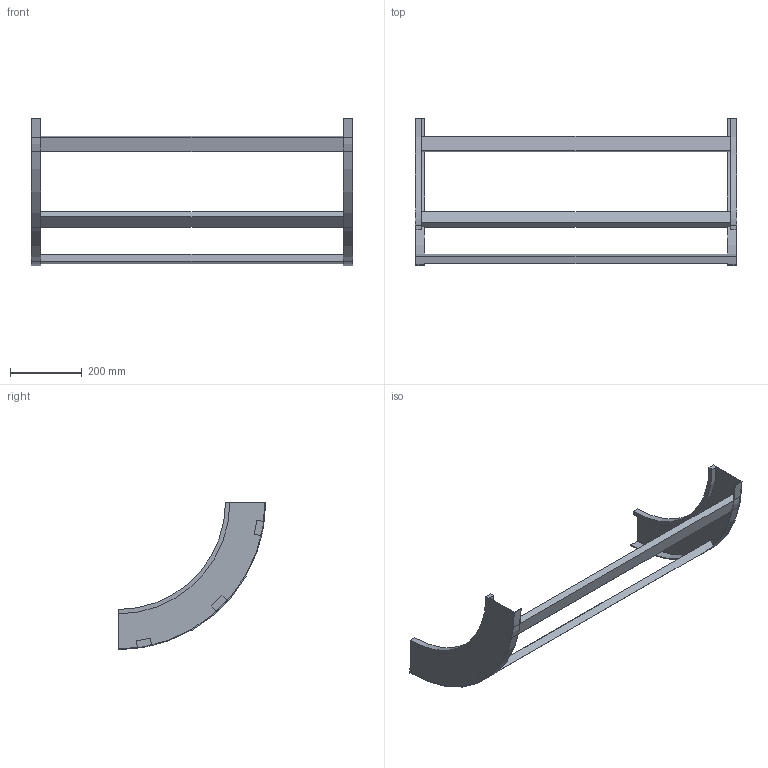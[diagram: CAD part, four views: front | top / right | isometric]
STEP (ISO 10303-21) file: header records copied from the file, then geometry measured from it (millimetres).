
FILE_DESCRIPTION (( 'STEP AP214' ), '1' );
FILE_NAME ('B2X30B3J900XX.step', '2025-03-20T10:23:06', ( '' ), ( '' ), 'SwSTEP 2.0', 'SolidWorks 2023', '' );
FILE_SCHEMA (( 'AUTOMOTIVE_DESIGN' ));
Length unit declared in the file: millimetre
Products named in the file (3): TRAVERSINO_900; B2X30B3J900XX; B2_LONGH.SALITA_90°_H112.5_R300
Assembly tree (5 placements, depth 2):
  B2X30B3J900XX
    B2_LONGH.SALITA_90°_H112.5_R300  x2
    TRAVERSINO_900  x3
Bounding box: 900 x 412.5 x 412.5 mm (x, y, z)
Volume: 2678311.4 mm3; surface area: 683671.8 mm2
Topology: 5 solids, 5 shells, 38 faces, 84 edges, 56 vertices
Faces by surface type: plane 30, cylinder 8
Entity records: 560 total; most frequent: DIRECTION 92, CARTESIAN_POINT 84, ORIENTED_EDGE 72, EDGE_CURVE 36, AXIS2_PLACEMENT_3D 32, LINE 28, VECTOR 28, VERTEX_POINT 24
